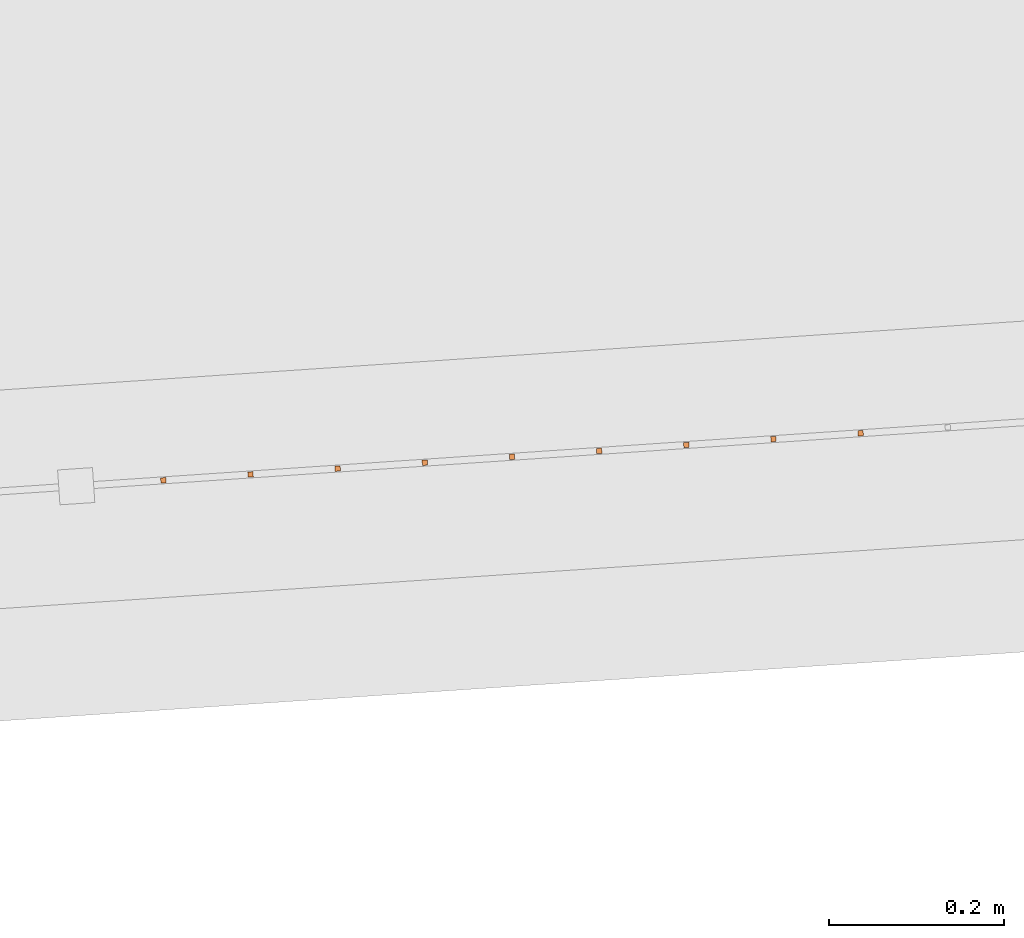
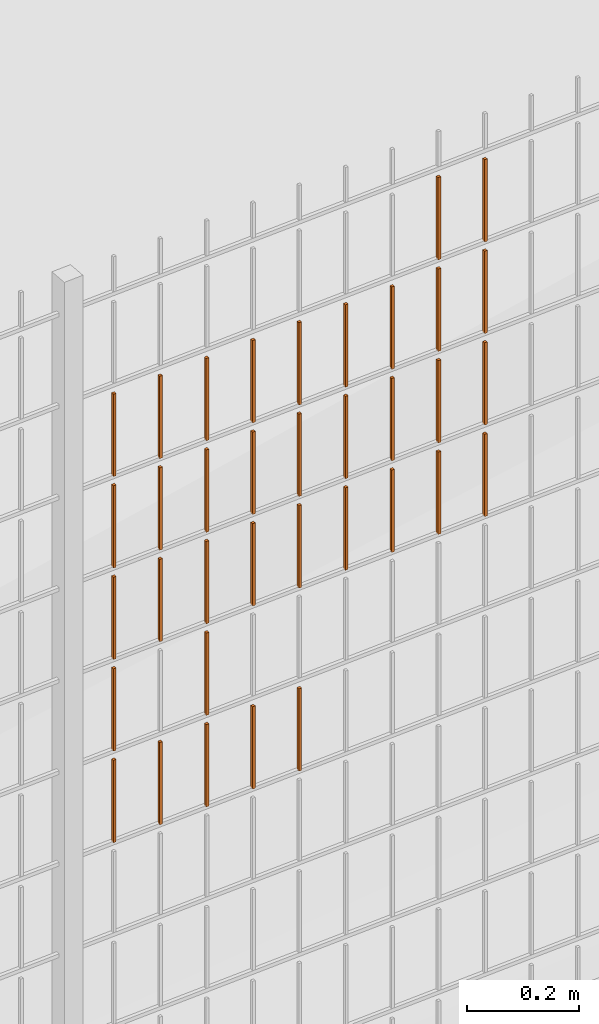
# One storey, part 98 of 1809: 36 proxies, 1 element without a shape of its own.
"""IFC2X3 building model written with IfcOpenShell, lengths in millimetres."""

from ifc_helpers import new_model, entity, si_unit, converted_unit, derived_unit, money_unit, direction, frame, origin_with_axes, place, context, subcontext, project, spatial, faceted_brep, source, transform, mapped, material, type_object, element, aggregate, save


model = new_model("IFC2X3")

# Units and contexts
model_context = context("Model", 3, precision=0.01, world=origin_with_axes(), true_north=direction((0.0, 1.0)))
body_context = subcontext(model_context, "Body", "Model", "MODEL_VIEW")
ifc_project = project(units=[si_unit("LENGTHUNIT", "METRE", prefix="MILLI"), si_unit("AREAUNIT", "SQUARE_METRE"), si_unit("VOLUMEUNIT", "CUBIC_METRE"), converted_unit("PLANEANGLEUNIT", "DEGREE", entity("IfcPlaneAngleMeasure", 0.0174532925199), si_unit("PLANEANGLEUNIT", "RADIAN"), dimensions=[0, 0, 0, 0, 0, 0, 0]), si_unit("SOLIDANGLEUNIT", "STERADIAN"), money_unit("EUR"), converted_unit("TIMEUNIT", "Year", entity("IfcTimeMeasure", 31556926.0), si_unit("TIMEUNIT", "SECOND"), dimensions=[0, 0, 1, 0, 0, 0, 0]), si_unit("MASSUNIT", "GRAM", prefix="KILO"), si_unit("THERMODYNAMICTEMPERATUREUNIT", "DEGREE_CELSIUS"), si_unit("LUMINOUSINTENSITYUNIT", "LUMEN"), si_unit("ENERGYUNIT", "JOULE", prefix="MEGA"), derived_unit("THERMALCONDUCTANCEUNIT", [(si_unit("POWERUNIT", "WATT"), 1), (si_unit("LENGTHUNIT", "METRE"), -1), (si_unit("THERMODYNAMICTEMPERATUREUNIT", "KELVIN"), -1)]), derived_unit("SPECIFICHEATCAPACITYUNIT", [(si_unit("ENERGYUNIT", "JOULE"), 1), (si_unit("MASSUNIT", "GRAM", prefix="KILO"), -1), (si_unit("THERMODYNAMICTEMPERATUREUNIT", "KELVIN"), -1)]), derived_unit("MASSDENSITYUNIT", [(si_unit("MASSUNIT", "GRAM", prefix="KILO"), 1), (si_unit("VOLUMEUNIT", "CUBIC_METRE"), -1)])], contexts=[model_context])

# Site, building, storey
site_placement = place(None, origin_with_axes())
site = spatial("IfcSite", under=ifc_project, at=site_placement, Name="Politse- ja Piirivalveameti ning Päästeameti ühishoone", CompositionType="ELEMENT")
building_placement = place(site_placement, origin_with_axes())
building = spatial("IfcBuilding", under=site, at=building_placement, Name="Politse- ja Piirivalveameti ning Päästeameti ühishoone", CompositionType="ELEMENT")
storey_placement = place(building_placement, origin_with_axes())
storey = spatial("IfcBuildingStorey", under=building, at=storey_placement, Name="Esimene korrus", CompositionType="ELEMENT", Elevation=0.0)

# Proxies
building_element_proxy_type_1 = type_object("IfcBuildingElementProxyType", Name="Railing Type", PredefinedType="NOTDEFINED")
proxy_1_placement = place(storey_placement, frame((89252.001212, -29183.4766571, 203.661247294), z_axis=(0.0, 0.0, 1.0), x_axis=(1.0, 0.0, 0.0)))
proxy_1 = element("IfcBuildingElementProxy", 1, at=proxy_1_placement, inside=storey, type_object=building_element_proxy_type_1, Name="PIIRDEAED")
ifc_material = material(Name="ET-03_Raud")
building_element_proxy_type_2 = type_object("IfcBuildingElementProxyType", Name="IfcBuildingElementProxy", PredefinedType="NOTDEFINED")
shared_shape_1 = source(origin_with_axes(), body_context, "Body", "Brep", [
    faceted_brep([(3.0, 3.0, -0.000752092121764), (-3.0, 3.0, -0.000752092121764), (-3.0, 3.0, 179.99926046), (3.0, 3.0, 179.99926046), (3.0, -3.0, 0.000752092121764), (-3.0, -3.0, 0.000752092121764), (-3.0, -3.0, 180.000764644), (3.0, -3.0, 180.000764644)], [[[0, 1, 2, 3]], [[0, 4, 5, 1]], [[1, 5, 6, 2]], [[3, 2, 6, 7]], [[4, 0, 3, 7]], [[5, 4, 7, 6]]]),
])
proxy_2_placement = place(proxy_1_placement, frame((-97005.6460338, -23850.1400651, 802.859910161), z_axis=(0.0, 0.0, 1.0), x_axis=(1.0, 0.0, 0.0)))
proxy_2 = element("IfcBuildingElementProxy", 2, at=proxy_2_placement, type_object=building_element_proxy_type_2, material=ifc_material, Name="BALUSTER - 001", context=body_context, shape_type="MappedRepresentation", body=[
    mapped(shared_shape_1, transform((0.0, 0.0, 0.0), x_axis=(-0.0673926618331, 0.997726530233, 0.0), y_axis=(-0.997726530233, -0.0673926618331, 0.0), z_axis=(0.0, 0.0, 1.0))),
])
shared_shape_2 = source(origin_with_axes(), body_context, "Body", "Brep", [
    faceted_brep([(3.0, 3.0, -0.000752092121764), (-3.0, 3.0, -0.000752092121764), (-3.0, 3.0, 179.99926046), (3.0, 3.0, 179.99926046), (3.0, -3.0, 0.000752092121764), (-3.0, -3.0, 0.000752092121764), (-3.0, -3.0, 180.000764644), (3.0, -3.0, 180.000764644)], [[[0, 1, 2, 3]], [[0, 4, 5, 1]], [[1, 5, 6, 2]], [[3, 2, 6, 7]], [[4, 0, 3, 7]], [[5, 4, 7, 6]]]),
])
proxy_3_placement = place(proxy_1_placement, frame((-96905.8733808, -23843.4007989, 1202.8849799), z_axis=(0.0, 0.0, 1.0), x_axis=(1.0, 0.0, 0.0)))
proxy_3 = element("IfcBuildingElementProxy", 3, at=proxy_3_placement, type_object=building_element_proxy_type_2, material=ifc_material, Name="BALUSTER - 001", context=body_context, shape_type="MappedRepresentation", body=[
    mapped(shared_shape_2, transform((0.0, 0.0, 0.0), x_axis=(-0.0673926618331, 0.997726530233, 0.0), y_axis=(-0.997726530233, -0.0673926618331, 0.0), z_axis=(0.0, 0.0, 1.0))),
])
shared_shape_3 = source(origin_with_axes(), body_context, "Body", "Brep", [
    faceted_brep([(3.0, 3.0, -0.000752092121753), (-3.0, 3.0, -0.000752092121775), (-3.0, 3.0, 179.99926046), (3.0, 3.0, 179.99926046), (3.0, -3.0, 0.000752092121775), (-3.0, -3.0, 0.000752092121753), (-3.0, -3.0, 180.000764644), (3.0, -3.0, 180.000764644)], [[[0, 1, 2, 3]], [[0, 4, 5, 1]], [[1, 5, 6, 2]], [[3, 2, 6, 7]], [[4, 0, 3, 7]], [[5, 4, 7, 6]]]),
])
proxy_4_placement = place(proxy_1_placement, frame((-96207.4648097, -23796.2259356, 1203.06046806), z_axis=(0.0, 0.0, 1.0), x_axis=(1.0, 0.0, 0.0)))
proxy_4 = element("IfcBuildingElementProxy", 4, at=proxy_4_placement, type_object=building_element_proxy_type_2, material=ifc_material, Name="BALUSTER - 001", context=body_context, shape_type="MappedRepresentation", body=[
    mapped(shared_shape_3, transform((0.0, 0.0, 0.0), x_axis=(-0.0673926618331, 0.997726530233, 0.0), y_axis=(-0.997726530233, -0.0673926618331, 0.0), z_axis=(0.0, 0.0, 1.0))),
])
proxy_5_placement = place(proxy_1_placement, frame((-96706.3280748, -23829.9222665, 1202.93511937), z_axis=(0.0, 0.0, 1.0), x_axis=(1.0, 0.0, 0.0)))
proxy_5 = element("IfcBuildingElementProxy", 5, at=proxy_5_placement, type_object=building_element_proxy_type_2, material=ifc_material, Name="BALUSTER - 001", context=body_context, shape_type="MappedRepresentation", body=[
    mapped(shared_shape_3, transform((0.0, 0.0, 0.0), x_axis=(-0.0673926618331, 0.997726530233, 0.0), y_axis=(-0.997726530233, -0.0673926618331, 0.0), z_axis=(0.0, 0.0, 1.0))),
])
shared_shape_4 = source(origin_with_axes(), body_context, "Body", "Brep", [
    faceted_brep([(3.0, 3.0, -0.000752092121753), (-3.0, 3.0, -0.000752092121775), (-3.0, 3.0, 179.99926046), (3.0, 3.0, 179.99926046), (3.0, -3.0, 0.000752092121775), (-3.0, -3.0, 0.000752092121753), (-3.0, -3.0, 180.000764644), (3.0, -3.0, 180.000764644)], [[[0, 1, 2, 3]], [[0, 4, 5, 1]], [[1, 5, 6, 2]], [[3, 2, 6, 7]], [[4, 0, 3, 7]], [[5, 4, 7, 6]]]),
])
proxy_6_placement = place(proxy_1_placement, frame((-96207.4648097, -23796.2259356, 1403.06046806), z_axis=(0.0, 0.0, 1.0), x_axis=(1.0, 0.0, 0.0)))
proxy_6 = element("IfcBuildingElementProxy", 6, at=proxy_6_placement, type_object=building_element_proxy_type_2, material=ifc_material, Name="BALUSTER - 001", context=body_context, shape_type="MappedRepresentation", body=[
    mapped(shared_shape_4, transform((0.0, 0.0, 0.0), x_axis=(-0.0673926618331, 0.997726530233, 0.0), y_axis=(-0.997726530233, -0.0673926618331, 0.0), z_axis=(0.0, 0.0, 1.0))),
])
proxy_7_placement = place(proxy_1_placement, frame((-96706.3280748, -23829.9222665, 1402.93511937), z_axis=(0.0, 0.0, 1.0), x_axis=(1.0, 0.0, 0.0)))
proxy_7 = element("IfcBuildingElementProxy", 7, at=proxy_7_placement, type_object=building_element_proxy_type_2, material=ifc_material, Name="BALUSTER - 001", context=body_context, shape_type="MappedRepresentation", body=[
    mapped(shared_shape_4, transform((0.0, 0.0, 0.0), x_axis=(-0.0673926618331, 0.997726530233, 0.0), y_axis=(-0.997726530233, -0.0673926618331, 0.0), z_axis=(0.0, 0.0, 1.0))),
])
proxy_8_placement = place(proxy_1_placement, frame((-96207.4648097, -23796.2259356, 1603.06046806), z_axis=(0.0, 0.0, 1.0), x_axis=(1.0, 0.0, 0.0)))
proxy_8 = element("IfcBuildingElementProxy", 8, at=proxy_8_placement, type_object=building_element_proxy_type_2, material=ifc_material, Name="BALUSTER - 001", context=body_context, shape_type="MappedRepresentation", body=[
    mapped(shared_shape_4, transform((0.0, 0.0, 0.0), x_axis=(-0.0673926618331, 0.997726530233, 0.0), y_axis=(-0.997726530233, -0.0673926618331, 0.0), z_axis=(0.0, 0.0, 1.0))),
])
proxy_9_placement = place(proxy_1_placement, frame((-96706.3280748, -23829.9222665, 1602.93511937), z_axis=(0.0, 0.0, 1.0), x_axis=(1.0, 0.0, 0.0)))
proxy_9 = element("IfcBuildingElementProxy", 9, at=proxy_9_placement, type_object=building_element_proxy_type_2, material=ifc_material, Name="BALUSTER - 001", context=body_context, shape_type="MappedRepresentation", body=[
    mapped(shared_shape_4, transform((0.0, 0.0, 0.0), x_axis=(-0.0673926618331, 0.997726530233, 0.0), y_axis=(-0.997726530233, -0.0673926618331, 0.0), z_axis=(0.0, 0.0, 1.0))),
])
shared_shape_5 = source(origin_with_axes(), body_context, "Body", "Brep", [
    faceted_brep([(3.0, 3.0, -0.000752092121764), (-3.0, 3.0, -0.000752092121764), (-3.0, 3.0, 179.99926046), (3.0, 3.0, 179.99926046), (3.0, -3.0, 0.000752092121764), (-3.0, -3.0, 0.000752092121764), (-3.0, -3.0, 180.000764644), (3.0, -3.0, 180.000764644)], [[[0, 1, 2, 3]], [[0, 4, 5, 1]], [[1, 5, 6, 2]], [[3, 2, 6, 7]], [[4, 0, 3, 7]], [[5, 4, 7, 6]]]),
])
proxy_10_placement = place(proxy_1_placement, frame((-96905.8733808, -23843.4007989, 1402.8849799), z_axis=(0.0, 0.0, 1.0), x_axis=(1.0, 0.0, 0.0)))
proxy_10 = element("IfcBuildingElementProxy", 10, at=proxy_10_placement, type_object=building_element_proxy_type_2, material=ifc_material, Name="BALUSTER - 001", context=body_context, shape_type="MappedRepresentation", body=[
    mapped(shared_shape_5, transform((0.0, 0.0, 0.0), x_axis=(-0.0673926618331, 0.997726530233, 0.0), y_axis=(-0.997726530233, -0.0673926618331, 0.0), z_axis=(0.0, 0.0, 1.0))),
])
proxy_11_placement = place(proxy_1_placement, frame((-96905.8733808, -23843.4007989, 1602.8849799), z_axis=(0.0, 0.0, 1.0), x_axis=(1.0, 0.0, 0.0)))
proxy_11 = element("IfcBuildingElementProxy", 11, at=proxy_11_placement, type_object=building_element_proxy_type_2, material=ifc_material, Name="BALUSTER - 001", context=body_context, shape_type="MappedRepresentation", body=[
    mapped(shared_shape_5, transform((0.0, 0.0, 0.0), x_axis=(-0.0673926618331, 0.997726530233, 0.0), y_axis=(-0.997726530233, -0.0673926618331, 0.0), z_axis=(0.0, 0.0, 1.0))),
])
shared_shape_6 = source(origin_with_axes(), body_context, "Body", "Brep", [
    faceted_brep([(3.0, 3.0, -0.000752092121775), (-3.0, 3.0, -0.000752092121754), (-3.0, 3.0, 179.99926046), (3.0, 3.0, 179.99926046), (3.0, -3.0, 0.000752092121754), (-3.0, -3.0, 0.000752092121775), (-3.0, -3.0, 180.000764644), (3.0, -3.0, 180.000764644)], [[[0, 1, 2, 3]], [[0, 4, 5, 1]], [[1, 5, 6, 2]], [[3, 2, 6, 7]], [[4, 0, 3, 7]], [[5, 4, 7, 6]]]),
])
proxy_12_placement = place(proxy_1_placement, frame((-96706.3280748, -23829.9222665, 802.935119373), z_axis=(0.0, 0.0, 1.0), x_axis=(1.0, 0.0, 0.0)))
proxy_12 = element("IfcBuildingElementProxy", 12, at=proxy_12_placement, type_object=building_element_proxy_type_2, material=ifc_material, Name="BALUSTER - 001", context=body_context, shape_type="MappedRepresentation", body=[
    mapped(shared_shape_6, transform((0.0, 0.0, 0.0), x_axis=(-0.0673926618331, 0.997726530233, 0.0), y_axis=(-0.997726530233, -0.0673926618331, 0.0), z_axis=(0.0, 0.0, 1.0))),
])
shared_shape_7 = source(origin_with_axes(), body_context, "Body", "Brep", [
    faceted_brep([(3.0, 3.0, -0.000752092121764), (-3.0, 3.0, -0.000752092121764), (-3.0, 3.0, 179.99926046), (3.0, 3.0, 179.99926046), (3.0, -3.0, 0.000752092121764), (-3.0, -3.0, 0.000752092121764), (-3.0, -3.0, 180.000764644), (3.0, -3.0, 180.000764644)], [[[0, 1, 2, 3]], [[0, 4, 5, 1]], [[1, 5, 6, 2]], [[3, 2, 6, 7]], [[4, 0, 3, 7]], [[5, 4, 7, 6]]]),
])
proxy_13_placement = place(proxy_1_placement, frame((-96606.5554217, -23823.1830004, 802.960189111), z_axis=(0.0, 0.0, 1.0), x_axis=(1.0, 0.0, 0.0)))
proxy_13 = element("IfcBuildingElementProxy", 13, at=proxy_13_placement, type_object=building_element_proxy_type_2, material=ifc_material, Name="BALUSTER - 001", context=body_context, shape_type="MappedRepresentation", body=[
    mapped(shared_shape_7, transform((0.0, 0.0, 0.0), x_axis=(-0.0673926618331, 0.997726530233, 0.0), y_axis=(-0.997726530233, -0.0673926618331, 0.0), z_axis=(0.0, 0.0, 1.0))),
])
shared_shape_8 = source(origin_with_axes(), body_context, "Body", "Brep", [
    faceted_brep([(3.0, 3.0, -0.000752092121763), (-3.0, 3.0, -0.000752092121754), (-3.00000000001, 3.0, 179.99926046), (2.99999999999, 3.0, 179.99926046), (3.0, -3.0, 0.000752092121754), (-3.0, -3.0, 0.000752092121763), (-3.00000000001, -3.0, 180.000764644), (2.99999999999, -3.0, 180.000764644)], [[[0, 1, 2, 3]], [[0, 4, 5, 1]], [[1, 5, 6, 2]], [[3, 2, 6, 7]], [[4, 0, 3, 7]], [[5, 4, 7, 6]]]),
])
proxy_14_placement = place(proxy_1_placement, frame((-97005.6460338, -23850.1400651, 1002.85991016), z_axis=(0.0, 0.0, 1.0), x_axis=(1.0, 0.0, 0.0)))
proxy_14 = element("IfcBuildingElementProxy", 14, at=proxy_14_placement, type_object=building_element_proxy_type_2, material=ifc_material, Name="BALUSTER - 001", context=body_context, shape_type="MappedRepresentation", body=[
    mapped(shared_shape_8, transform((0.0, 0.0, 0.0), x_axis=(-0.0673926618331, 0.997726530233, 0.0), y_axis=(-0.997726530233, -0.0673926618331, 0.0), z_axis=(0.0, 0.0, 1.0))),
])
shared_shape_9 = source(origin_with_axes(), body_context, "Body", "Brep", [
    faceted_brep([(3.0, 3.0, -0.000752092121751), (-3.0, 3.0, -0.000752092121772), (-3.0, 3.0, 179.99926046), (3.0, 3.0, 179.99926046), (3.0, -3.0, 0.000752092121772), (-3.0, -3.0, 0.000752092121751), (-3.0, -3.0, 180.000764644), (3.0, -3.0, 180.000764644)], [[[0, 1, 2, 3]], [[0, 4, 5, 1]], [[1, 5, 6, 2]], [[3, 2, 6, 7]], [[4, 0, 3, 7]], [[5, 4, 7, 6]]]),
])
proxy_15_placement = place(proxy_1_placement, frame((-96207.4648097, -23796.2259356, 1803.06046806), z_axis=(0.0, 0.0, 1.0), x_axis=(1.0, 0.0, 0.0)))
proxy_15 = element("IfcBuildingElementProxy", 15, at=proxy_15_placement, type_object=building_element_proxy_type_2, material=ifc_material, Name="BALUSTER - 001", context=body_context, shape_type="MappedRepresentation", body=[
    mapped(shared_shape_9, transform((0.0, 0.0, 0.0), x_axis=(-0.0673926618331, 0.997726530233, 0.0), y_axis=(-0.997726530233, -0.0673926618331, 0.0), z_axis=(0.0, 0.0, 1.0))),
])
shared_shape_10 = source(origin_with_axes(), body_context, "Body", "Brep", [
    faceted_brep([(3.0, 3.0, -0.000752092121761), (-3.0, 3.0, -0.000752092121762), (-3.0, 3.0, 179.99926046), (3.0, 3.0, 179.99926046), (3.0, -3.0, 0.000752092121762), (-3.0, -3.0, 0.000752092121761), (-3.0, -3.0, 180.000764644), (3.0, -3.0, 180.000764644)], [[[0, 1, 2, 3]], [[0, 4, 5, 1]], [[1, 5, 6, 2]], [[3, 2, 6, 7]], [[4, 0, 3, 7]], [[5, 4, 7, 6]]]),
])
proxy_16_placement = place(proxy_1_placement, frame((-96506.7827687, -23816.4437342, 1202.98525885), z_axis=(0.0, 0.0, 1.0), x_axis=(1.0, 0.0, 0.0)))
proxy_16 = element("IfcBuildingElementProxy", 16, at=proxy_16_placement, type_object=building_element_proxy_type_2, material=ifc_material, Name="BALUSTER - 001", context=body_context, shape_type="MappedRepresentation", body=[
    mapped(shared_shape_10, transform((0.0, 0.0, 0.0), x_axis=(-0.0673926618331, 0.997726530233, 0.0), y_axis=(-0.997726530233, -0.0673926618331, 0.0), z_axis=(0.0, 0.0, 1.0))),
])
shared_shape_11 = source(origin_with_axes(), body_context, "Body", "Brep", [
    faceted_brep([(3.0, 3.0, -0.000752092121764), (-3.0, 3.0, -0.000752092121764), (-3.0, 3.0, 179.99926046), (3.0, 3.0, 179.99926046), (3.0, -3.0, 0.000752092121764), (-3.0, -3.0, 0.000752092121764), (-3.0, -3.0, 180.000764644), (3.0, -3.0, 180.000764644)], [[[0, 1, 2, 3]], [[0, 4, 5, 1]], [[1, 5, 6, 2]], [[3, 2, 6, 7]], [[4, 0, 3, 7]], [[5, 4, 7, 6]]]),
])
proxy_17_placement = place(proxy_1_placement, frame((-96806.1007278, -23836.6615327, 802.910049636), z_axis=(0.0, 0.0, 1.0), x_axis=(1.0, 0.0, 0.0)))
proxy_17 = element("IfcBuildingElementProxy", 17, at=proxy_17_placement, type_object=building_element_proxy_type_2, material=ifc_material, Name="BALUSTER - 001", context=body_context, shape_type="MappedRepresentation", body=[
    mapped(shared_shape_11, transform((0.0, 0.0, 0.0), x_axis=(-0.0673926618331, 0.997726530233, 0.0), y_axis=(-0.997726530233, -0.0673926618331, 0.0), z_axis=(0.0, 0.0, 1.0))),
])
proxy_18_placement = place(proxy_1_placement, frame((-96806.1007278, -23836.6615327, 1202.91004964), z_axis=(0.0, 0.0, 1.0), x_axis=(1.0, 0.0, 0.0)))
proxy_18 = element("IfcBuildingElementProxy", 18, at=proxy_18_placement, type_object=building_element_proxy_type_2, material=ifc_material, Name="BALUSTER - 001", context=body_context, shape_type="MappedRepresentation", body=[
    mapped(shared_shape_11, transform((0.0, 0.0, 0.0), x_axis=(-0.0673926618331, 0.997726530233, 0.0), y_axis=(-0.997726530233, -0.0673926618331, 0.0), z_axis=(0.0, 0.0, 1.0))),
])
shared_shape_12 = source(origin_with_axes(), body_context, "Body", "Brep", [
    faceted_brep([(3.0, 3.0, -0.000752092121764), (-3.0, 3.0, -0.000752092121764), (-3.0, 3.0, 179.99926046), (3.0, 3.0, 179.99926046), (3.0, -3.0, 0.000752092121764), (-3.0, -3.0, 0.000752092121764), (-3.0, -3.0, 180.000764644), (3.0, -3.0, 180.000764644)], [[[0, 1, 2, 3]], [[0, 4, 5, 1]], [[1, 5, 6, 2]], [[3, 2, 6, 7]], [[4, 0, 3, 7]], [[5, 4, 7, 6]]]),
])
proxy_19_placement = place(proxy_1_placement, frame((-96806.1007278, -23836.6615327, 1402.91004964), z_axis=(0.0, 0.0, 1.0), x_axis=(1.0, 0.0, 0.0)))
proxy_19 = element("IfcBuildingElementProxy", 19, at=proxy_19_placement, type_object=building_element_proxy_type_2, material=ifc_material, Name="BALUSTER - 001", context=body_context, shape_type="MappedRepresentation", body=[
    mapped(shared_shape_12, transform((0.0, 0.0, 0.0), x_axis=(-0.0673926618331, 0.997726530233, 0.0), y_axis=(-0.997726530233, -0.0673926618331, 0.0), z_axis=(0.0, 0.0, 1.0))),
])
proxy_20_placement = place(proxy_1_placement, frame((-96806.1007278, -23836.6615327, 1602.91004964), z_axis=(0.0, 0.0, 1.0), x_axis=(1.0, 0.0, 0.0)))
proxy_20 = element("IfcBuildingElementProxy", 20, at=proxy_20_placement, type_object=building_element_proxy_type_2, material=ifc_material, Name="BALUSTER - 001", context=body_context, shape_type="MappedRepresentation", body=[
    mapped(shared_shape_12, transform((0.0, 0.0, 0.0), x_axis=(-0.0673926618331, 0.997726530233, 0.0), y_axis=(-0.997726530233, -0.0673926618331, 0.0), z_axis=(0.0, 0.0, 1.0))),
])
shared_shape_13 = source(origin_with_axes(), body_context, "Body", "Brep", [
    faceted_brep([(3.0, 3.0, -0.000752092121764), (-3.0, 3.0, -0.000752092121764), (-3.0, 3.0, 179.99926046), (3.0, 3.0, 179.99926046), (3.0, -3.0, 0.000752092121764), (-3.0, -3.0, 0.000752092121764), (-3.0, -3.0, 180.000764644), (3.0, -3.0, 180.000764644)], [[[0, 1, 2, 3]], [[0, 4, 5, 1]], [[1, 5, 6, 2]], [[3, 2, 6, 7]], [[4, 0, 3, 7]], [[5, 4, 7, 6]]]),
])
proxy_21_placement = place(proxy_1_placement, frame((-96407.0101157, -23809.704468, 1203.01032859), z_axis=(0.0, 0.0, 1.0), x_axis=(1.0, 0.0, 0.0)))
proxy_21 = element("IfcBuildingElementProxy", 21, at=proxy_21_placement, type_object=building_element_proxy_type_2, material=ifc_material, Name="BALUSTER - 001", context=body_context, shape_type="MappedRepresentation", body=[
    mapped(shared_shape_13, transform((0.0, 0.0, 0.0), x_axis=(-0.0673926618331, 0.997726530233, 0.0), y_axis=(-0.997726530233, -0.0673926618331, 0.0), z_axis=(0.0, 0.0, 1.0))),
])
shared_shape_14 = source(origin_with_axes(), body_context, "Body", "Brep", [
    faceted_brep([(3.0, 3.0, -0.000752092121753), (-3.0, 3.0, -0.000752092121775), (-3.0, 3.0, 179.99926046), (3.0, 3.0, 179.99926046), (3.0, -3.0, 0.000752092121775), (-3.0, -3.0, 0.000752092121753), (-3.0, -3.0, 180.000764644), (3.0, -3.0, 180.000764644)], [[[0, 1, 2, 3]], [[0, 4, 5, 1]], [[1, 5, 6, 2]], [[3, 2, 6, 7]], [[4, 0, 3, 7]], [[5, 4, 7, 6]]]),
])
proxy_22_placement = place(proxy_1_placement, frame((-96905.8733808, -23843.4007989, 802.884979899), z_axis=(0.0, 0.0, 1.0), x_axis=(1.0, 0.0, 0.0)))
proxy_22 = element("IfcBuildingElementProxy", 22, at=proxy_22_placement, type_object=building_element_proxy_type_2, material=ifc_material, Name="BALUSTER - 001", context=body_context, shape_type="MappedRepresentation", body=[
    mapped(shared_shape_14, transform((0.0, 0.0, 0.0), x_axis=(-0.0673926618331, 0.997726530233, 0.0), y_axis=(-0.997726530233, -0.0673926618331, 0.0), z_axis=(0.0, 0.0, 1.0))),
])
shared_shape_15 = source(origin_with_axes(), body_context, "Body", "Brep", [
    faceted_brep([(3.0, 3.0, -0.000752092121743), (-3.0, 3.0, -0.000752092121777), (-3.00000000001, 3.00000000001, 179.99926046), (2.99999999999, 3.00000000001, 179.99926046), (3.0, -3.0, 0.000752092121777), (-3.0, -3.0, 0.000752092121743), (-3.00000000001, -2.99999999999, 180.000764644), (2.99999999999, -2.99999999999, 180.000764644)], [[[0, 1, 2, 3]], [[0, 4, 5, 1]], [[1, 5, 6, 2]], [[3, 2, 6, 7]], [[4, 0, 3, 7]], [[5, 4, 7, 6]]]),
])
proxy_23_placement = place(proxy_1_placement, frame((-96806.1007278, -23836.6615327, 1002.91004964), z_axis=(0.0, 0.0, 1.0), x_axis=(1.0, 0.0, 0.0)))
proxy_23 = element("IfcBuildingElementProxy", 23, at=proxy_23_placement, type_object=building_element_proxy_type_2, material=ifc_material, Name="BALUSTER - 001", context=body_context, shape_type="MappedRepresentation", body=[
    mapped(shared_shape_15, transform((0.0, 0.0, 0.0), x_axis=(-0.0673926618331, 0.997726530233, 0.0), y_axis=(-0.997726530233, -0.0673926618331, 0.0), z_axis=(0.0, 0.0, 1.0))),
])
shared_shape_16 = source(origin_with_axes(), body_context, "Body", "Brep", [
    faceted_brep([(3.0, 3.0, -0.000752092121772), (-3.0, 3.0, -0.000752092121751), (-3.0, 3.0, 179.99926046), (3.0, 3.0, 179.99926046), (3.0, -3.0, 0.000752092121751), (-3.0, -3.0, 0.000752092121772), (-3.0, -3.0, 180.000764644), (3.0, -3.0, 180.000764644)], [[[0, 1, 2, 3]], [[0, 4, 5, 1]], [[1, 5, 6, 2]], [[3, 2, 6, 7]], [[4, 0, 3, 7]], [[5, 4, 7, 6]]]),
])
proxy_24_placement = place(proxy_1_placement, frame((-96307.2374627, -23802.9652018, 1203.03539832), z_axis=(0.0, 0.0, 1.0), x_axis=(1.0, 0.0, 0.0)))
proxy_24 = element("IfcBuildingElementProxy", 24, at=proxy_24_placement, type_object=building_element_proxy_type_2, material=ifc_material, Name="BALUSTER - 001", context=body_context, shape_type="MappedRepresentation", body=[
    mapped(shared_shape_16, transform((0.0, 0.0, 0.0), x_axis=(-0.0673926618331, 0.997726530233, 0.0), y_axis=(-0.997726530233, -0.0673926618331, 0.0), z_axis=(0.0, 0.0, 1.0))),
])
shared_shape_17 = source(origin_with_axes(), body_context, "Body", "Brep", [
    faceted_brep([(3.0, 3.0, -0.000752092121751), (-3.0, 3.0, -0.000752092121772), (-3.0, 3.0, 179.99926046), (3.0, 3.0, 179.99926046), (3.0, -3.0, 0.000752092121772), (-3.0, -3.0, 0.000752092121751), (-3.0, -3.0, 180.000764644), (3.0, -3.0, 180.000764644)], [[[0, 1, 2, 3]], [[0, 4, 5, 1]], [[1, 5, 6, 2]], [[3, 2, 6, 7]], [[4, 0, 3, 7]], [[5, 4, 7, 6]]]),
])
proxy_25_placement = place(proxy_1_placement, frame((-96606.5554217, -23823.1830004, 1202.96018911), z_axis=(0.0, 0.0, 1.0), x_axis=(1.0, 0.0, 0.0)))
proxy_25 = element("IfcBuildingElementProxy", 25, at=proxy_25_placement, type_object=building_element_proxy_type_2, material=ifc_material, Name="BALUSTER - 001", context=body_context, shape_type="MappedRepresentation", body=[
    mapped(shared_shape_17, transform((0.0, 0.0, 0.0), x_axis=(-0.0673926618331, 0.997726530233, 0.0), y_axis=(-0.997726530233, -0.0673926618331, 0.0), z_axis=(0.0, 0.0, 1.0))),
])
shared_shape_18 = source(origin_with_axes(), body_context, "Body", "Brep", [
    faceted_brep([(3.0, 3.0, -0.000752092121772), (-3.0, 3.0, -0.000752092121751), (-3.0, 3.0, 179.99926046), (3.0, 3.0, 179.99926046), (3.0, -3.0, 0.000752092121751), (-3.0, -3.0, 0.000752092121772), (-3.0, -3.0, 180.000764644), (3.0, -3.0, 180.000764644)], [[[0, 1, 2, 3]], [[0, 4, 5, 1]], [[1, 5, 6, 2]], [[3, 2, 6, 7]], [[4, 0, 3, 7]], [[5, 4, 7, 6]]]),
])
proxy_26_placement = place(proxy_1_placement, frame((-97005.6460338, -23850.1400651, 1202.85991016), z_axis=(0.0, 0.0, 1.0), x_axis=(1.0, 0.0, 0.0)))
proxy_26 = element("IfcBuildingElementProxy", 26, at=proxy_26_placement, type_object=building_element_proxy_type_2, material=ifc_material, Name="BALUSTER - 001", context=body_context, shape_type="MappedRepresentation", body=[
    mapped(shared_shape_18, transform((0.0, 0.0, 0.0), x_axis=(-0.0673926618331, 0.997726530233, 0.0), y_axis=(-0.997726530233, -0.0673926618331, 0.0), z_axis=(0.0, 0.0, 1.0))),
])
proxy_27_placement = place(proxy_1_placement, frame((-96307.2374627, -23802.9652018, 1803.03539832), z_axis=(0.0, 0.0, 1.0), x_axis=(1.0, 0.0, 0.0)))
proxy_27 = element("IfcBuildingElementProxy", 27, at=proxy_27_placement, type_object=building_element_proxy_type_2, material=ifc_material, Name="BALUSTER - 001", context=body_context, shape_type="MappedRepresentation", body=[
    mapped(shared_shape_18, transform((0.0, 0.0, 0.0), x_axis=(-0.0673926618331, 0.997726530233, 0.0), y_axis=(-0.997726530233, -0.0673926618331, 0.0), z_axis=(0.0, 0.0, 1.0))),
])
shared_shape_19 = source(origin_with_axes(), body_context, "Body", "Brep", [
    faceted_brep([(3.0, 3.0, -0.000752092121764), (-3.0, 3.0, -0.000752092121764), (-3.0, 3.0, 179.99926046), (3.0, 3.0, 179.99926046), (3.0, -3.0, 0.000752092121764), (-3.0, -3.0, 0.000752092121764), (-3.0, -3.0, 180.000764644), (3.0, -3.0, 180.000764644)], [[[0, 1, 2, 3]], [[0, 4, 5, 1]], [[1, 5, 6, 2]], [[3, 2, 6, 7]], [[4, 0, 3, 7]], [[5, 4, 7, 6]]]),
])
proxy_28_placement = place(proxy_1_placement, frame((-96407.0101157, -23809.704468, 1403.01032859), z_axis=(0.0, 0.0, 1.0), x_axis=(1.0, 0.0, 0.0)))
proxy_28 = element("IfcBuildingElementProxy", 28, at=proxy_28_placement, type_object=building_element_proxy_type_2, material=ifc_material, Name="BALUSTER - 001", context=body_context, shape_type="MappedRepresentation", body=[
    mapped(shared_shape_19, transform((0.0, 0.0, 0.0), x_axis=(-0.0673926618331, 0.997726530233, 0.0), y_axis=(-0.997726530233, -0.0673926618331, 0.0), z_axis=(0.0, 0.0, 1.0))),
])
proxy_29_placement = place(proxy_1_placement, frame((-96407.0101157, -23809.704468, 1603.01032859), z_axis=(0.0, 0.0, 1.0), x_axis=(1.0, 0.0, 0.0)))
proxy_29 = element("IfcBuildingElementProxy", 29, at=proxy_29_placement, type_object=building_element_proxy_type_2, material=ifc_material, Name="BALUSTER - 001", context=body_context, shape_type="MappedRepresentation", body=[
    mapped(shared_shape_19, transform((0.0, 0.0, 0.0), x_axis=(-0.0673926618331, 0.997726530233, 0.0), y_axis=(-0.997726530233, -0.0673926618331, 0.0), z_axis=(0.0, 0.0, 1.0))),
])
shared_shape_20 = source(origin_with_axes(), body_context, "Body", "Brep", [
    faceted_brep([(3.0, 3.0, -0.000752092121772), (-3.0, 3.0, -0.000752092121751), (-3.0, 3.0, 179.99926046), (3.0, 3.0, 179.99926046), (3.0, -3.0, 0.000752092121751), (-3.0, -3.0, 0.000752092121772), (-3.0, -3.0, 180.000764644), (3.0, -3.0, 180.000764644)], [[[0, 1, 2, 3]], [[0, 4, 5, 1]], [[1, 5, 6, 2]], [[3, 2, 6, 7]], [[4, 0, 3, 7]], [[5, 4, 7, 6]]]),
])
proxy_30_placement = place(proxy_1_placement, frame((-96307.2374627, -23802.9652018, 1403.03539832), z_axis=(0.0, 0.0, 1.0), x_axis=(1.0, 0.0, 0.0)))
proxy_30 = element("IfcBuildingElementProxy", 30, at=proxy_30_placement, type_object=building_element_proxy_type_2, material=ifc_material, Name="BALUSTER - 001", context=body_context, shape_type="MappedRepresentation", body=[
    mapped(shared_shape_20, transform((0.0, 0.0, 0.0), x_axis=(-0.0673926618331, 0.997726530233, 0.0), y_axis=(-0.997726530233, -0.0673926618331, 0.0), z_axis=(0.0, 0.0, 1.0))),
])
proxy_31_placement = place(proxy_1_placement, frame((-96307.2374627, -23802.9652018, 1603.03539832), z_axis=(0.0, 0.0, 1.0), x_axis=(1.0, 0.0, 0.0)))
proxy_31 = element("IfcBuildingElementProxy", 31, at=proxy_31_placement, type_object=building_element_proxy_type_2, material=ifc_material, Name="BALUSTER - 001", context=body_context, shape_type="MappedRepresentation", body=[
    mapped(shared_shape_20, transform((0.0, 0.0, 0.0), x_axis=(-0.0673926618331, 0.997726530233, 0.0), y_axis=(-0.997726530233, -0.0673926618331, 0.0), z_axis=(0.0, 0.0, 1.0))),
])
shared_shape_21 = source(origin_with_axes(), body_context, "Body", "Brep", [
    faceted_brep([(3.0, 3.0, -0.000752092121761), (-3.0, 3.0, -0.000752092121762), (-3.0, 3.0, 179.99926046), (3.0, 3.0, 179.99926046), (3.0, -3.0, 0.000752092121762), (-3.0, -3.0, 0.000752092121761), (-3.0, -3.0, 180.000764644), (3.0, -3.0, 180.000764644)], [[[0, 1, 2, 3]], [[0, 4, 5, 1]], [[1, 5, 6, 2]], [[3, 2, 6, 7]], [[4, 0, 3, 7]], [[5, 4, 7, 6]]]),
])
proxy_32_placement = place(proxy_1_placement, frame((-96506.7827687, -23816.4437342, 1402.98525885), z_axis=(0.0, 0.0, 1.0), x_axis=(1.0, 0.0, 0.0)))
proxy_32 = element("IfcBuildingElementProxy", 32, at=proxy_32_placement, type_object=building_element_proxy_type_2, material=ifc_material, Name="BALUSTER - 001", context=body_context, shape_type="MappedRepresentation", body=[
    mapped(shared_shape_21, transform((0.0, 0.0, 0.0), x_axis=(-0.0673926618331, 0.997726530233, 0.0), y_axis=(-0.997726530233, -0.0673926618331, 0.0), z_axis=(0.0, 0.0, 1.0))),
])
proxy_33_placement = place(proxy_1_placement, frame((-96506.7827687, -23816.4437342, 1602.98525885), z_axis=(0.0, 0.0, 1.0), x_axis=(1.0, 0.0, 0.0)))
proxy_33 = element("IfcBuildingElementProxy", 33, at=proxy_33_placement, type_object=building_element_proxy_type_2, material=ifc_material, Name="BALUSTER - 001", context=body_context, shape_type="MappedRepresentation", body=[
    mapped(shared_shape_21, transform((0.0, 0.0, 0.0), x_axis=(-0.0673926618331, 0.997726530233, 0.0), y_axis=(-0.997726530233, -0.0673926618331, 0.0), z_axis=(0.0, 0.0, 1.0))),
])
shared_shape_22 = source(origin_with_axes(), body_context, "Body", "Brep", [
    faceted_brep([(3.0, 3.0, -0.000752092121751), (-3.0, 3.0, -0.000752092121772), (-3.0, 3.0, 179.99926046), (3.0, 3.0, 179.99926046), (3.0, -3.0, 0.000752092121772), (-3.0, -3.0, 0.000752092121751), (-3.0, -3.0, 180.000764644), (3.0, -3.0, 180.000764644)], [[[0, 1, 2, 3]], [[0, 4, 5, 1]], [[1, 5, 6, 2]], [[3, 2, 6, 7]], [[4, 0, 3, 7]], [[5, 4, 7, 6]]]),
])
proxy_34_placement = place(proxy_1_placement, frame((-96606.5554217, -23823.1830004, 1402.96018911), z_axis=(0.0, 0.0, 1.0), x_axis=(1.0, 0.0, 0.0)))
proxy_34 = element("IfcBuildingElementProxy", 34, at=proxy_34_placement, type_object=building_element_proxy_type_2, material=ifc_material, Name="BALUSTER - 001", context=body_context, shape_type="MappedRepresentation", body=[
    mapped(shared_shape_22, transform((0.0, 0.0, 0.0), x_axis=(-0.0673926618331, 0.997726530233, 0.0), y_axis=(-0.997726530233, -0.0673926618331, 0.0), z_axis=(0.0, 0.0, 1.0))),
])
proxy_35_placement = place(proxy_1_placement, frame((-96606.5554217, -23823.1830004, 1602.96018911), z_axis=(0.0, 0.0, 1.0), x_axis=(1.0, 0.0, 0.0)))
proxy_35 = element("IfcBuildingElementProxy", 35, at=proxy_35_placement, type_object=building_element_proxy_type_2, material=ifc_material, Name="BALUSTER - 001", context=body_context, shape_type="MappedRepresentation", body=[
    mapped(shared_shape_22, transform((0.0, 0.0, 0.0), x_axis=(-0.0673926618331, 0.997726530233, 0.0), y_axis=(-0.997726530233, -0.0673926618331, 0.0), z_axis=(0.0, 0.0, 1.0))),
])
shared_shape_23 = source(origin_with_axes(), body_context, "Body", "Brep", [
    faceted_brep([(3.0, 3.0, -0.000752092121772), (-3.0, 3.0, -0.000752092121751), (-3.0, 3.0, 179.99926046), (3.0, 3.0, 179.99926046), (3.0, -3.0, 0.000752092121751), (-3.0, -3.0, 0.000752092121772), (-3.0, -3.0, 180.000764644), (3.0, -3.0, 180.000764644)], [[[0, 1, 2, 3]], [[0, 4, 5, 1]], [[1, 5, 6, 2]], [[3, 2, 6, 7]], [[4, 0, 3, 7]], [[5, 4, 7, 6]]]),
])
proxy_36_placement = place(proxy_1_placement, frame((-97005.6460338, -23850.1400651, 1402.85991016), z_axis=(0.0, 0.0, 1.0), x_axis=(1.0, 0.0, 0.0)))
proxy_36 = element("IfcBuildingElementProxy", 36, at=proxy_36_placement, type_object=building_element_proxy_type_2, material=ifc_material, Name="BALUSTER - 001", context=body_context, shape_type="MappedRepresentation", body=[
    mapped(shared_shape_23, transform((0.0, 0.0, 0.0), x_axis=(-0.0673926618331, 0.997726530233, 0.0), y_axis=(-0.997726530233, -0.0673926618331, 0.0), z_axis=(0.0, 0.0, 1.0))),
])
proxy_37_placement = place(proxy_1_placement, frame((-97005.6460338, -23850.1400651, 1602.85991016), z_axis=(0.0, 0.0, 1.0), x_axis=(1.0, 0.0, 0.0)))
proxy_37 = element("IfcBuildingElementProxy", 37, at=proxy_37_placement, type_object=building_element_proxy_type_2, material=ifc_material, Name="BALUSTER - 001", context=body_context, shape_type="MappedRepresentation", body=[
    mapped(shared_shape_23, transform((0.0, 0.0, 0.0), x_axis=(-0.0673926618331, 0.997726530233, 0.0), y_axis=(-0.997726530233, -0.0673926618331, 0.0), z_axis=(0.0, 0.0, 1.0))),
])
aggregate(proxy_1, [proxy_13, proxy_12, proxy_17, proxy_22, proxy_2, proxy_23, proxy_14, proxy_4, proxy_24, proxy_21, proxy_16, proxy_25, proxy_5, proxy_18, proxy_3, proxy_26, proxy_6, proxy_30, proxy_28, proxy_32, proxy_34, proxy_7, proxy_19, proxy_10, proxy_36, proxy_8, proxy_31, proxy_29, proxy_33, proxy_35, proxy_9, proxy_20, proxy_11, proxy_37, proxy_15, proxy_27])

save(model, "model.ifc")
